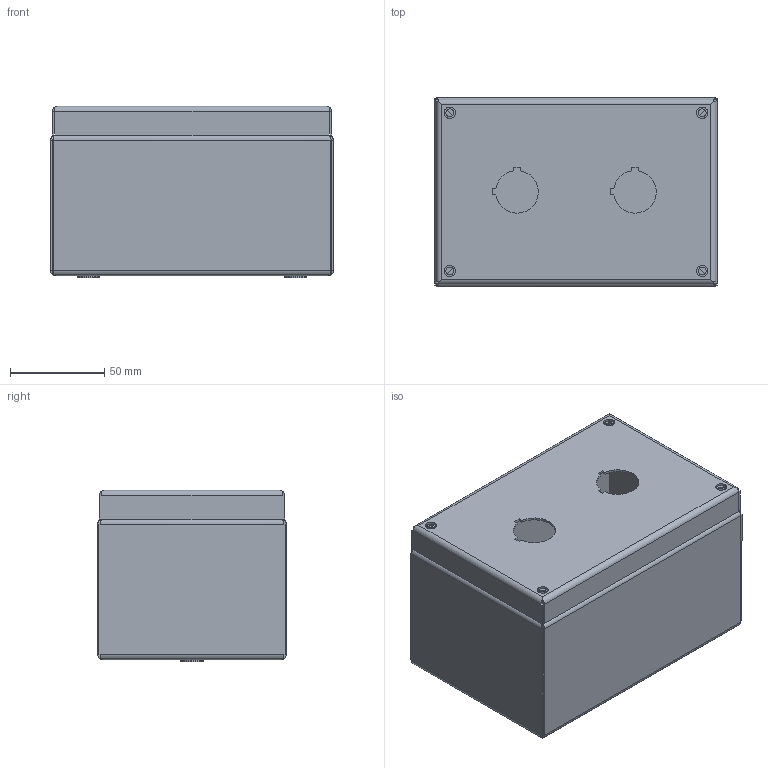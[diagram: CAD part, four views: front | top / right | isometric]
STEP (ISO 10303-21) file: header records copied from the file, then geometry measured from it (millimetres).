
FILE_DESCRIPTION(/* description */ ('www.inoxveneta.it','CAx-IF Rec.Pracs.---Representation and Presentation of Product Manufacturing Information (PMI)---4.0---2014-10-13','CAx-IF Rec.Pracs.---3D Tessellated Geometry---0.4---2014-09-14','2;1'),/* implementation_level */ '2;1');
FILE_NAME(/* name */ 'SCA01001509.2',/* time_stamp */ '2023-02-01T09:06:47+01:00',/* author */ ('Inoxveneta S.p.A '),/* organization */ ('Unknown'),/* preprocessor_version */ 'ST-DEVELOPER v18.102',/* originating_system */ 'Solid Edge',/* authorisation */ 'Unknown');
FILE_SCHEMA (('AP242_MANAGED_MODEL_BASED_3D_ENGINEERING_MIM_LF { 1 0 10303 442 1 1 4 }'));
Length unit declared in the file: millimetre
Products named in the file (12): SCA01001509.2; S000X000.39; S0000000.30; AE00511.01; S0000000.78; S0000000.02; C0000000.08; AE00891.05; S000X000.88; S0000000.84; AE00407.01; S0000000.04
Assembly tree (17 placements, depth 3):
  SCA01001509.2
    S000X000.39
      S0000000.30
      AE00511.01  x4
    S0000000.78  x2
    S0000000.02  x2
    C0000000.08
    AE00891.05  x2
    S000X000.88
      S0000000.84
      AE00407.01
    S0000000.04
Bounding box: 150 x 100 x 91 mm (x, y, z)
Volume: 117491.4 mm3; surface area: 185628.4 mm2
Topology: 15 solids, 15 shells, 526 faces, 1257 edges, 771 vertices
Faces by surface type: plane 324, cylinder 116, cone 49, bspline 24, torus 13
Full cylindrical faces by diameter (mm): 4.2 x6, 5 x3, 6 x4, 6.5 x1, 6.647 x2, 7 x4, 8 x2, 8.25 x2, 11 x2, 12 x2
Entity records: 11491 total; most frequent: CARTESIAN_POINT 2238, DIRECTION 1752, ORIENTED_EDGE 1680, EDGE_CURVE 840, AXIS2_PLACEMENT_3D 592, LINE 568, VECTOR 568, VERTEX_POINT 526
